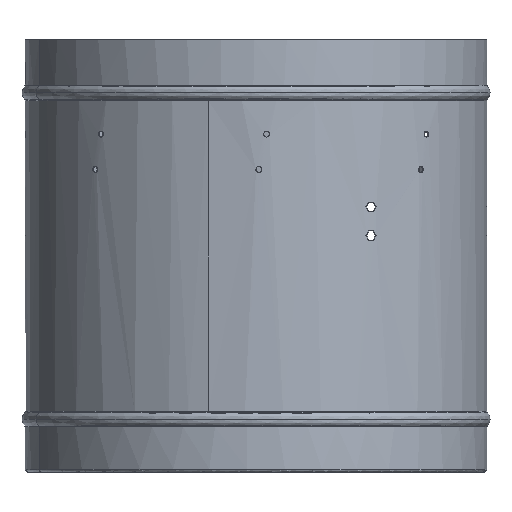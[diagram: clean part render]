
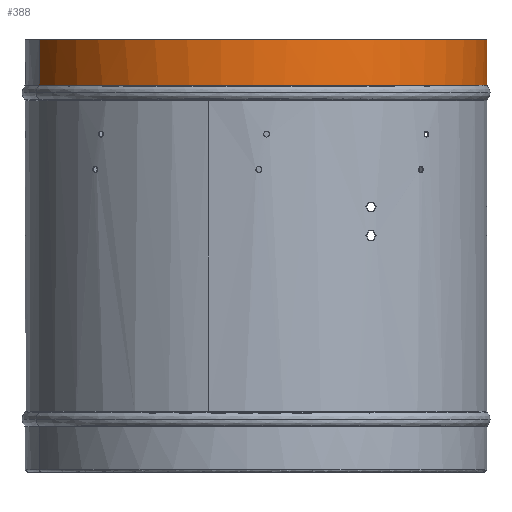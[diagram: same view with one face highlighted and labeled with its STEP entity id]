
A CAD part, front view. The second image highlights one B-rep face of the part: STEP entity #388.
In plain terms, the highlighted cylindrical face has radius 176 mm (diameter 352 mm), a partial arc.
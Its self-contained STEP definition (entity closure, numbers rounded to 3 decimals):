
#94=(
BOUNDED_CURVE()
B_SPLINE_CURVE(2,(#9129,#9130,#9131),.UNSPECIFIED.,.F.,.F.)
B_SPLINE_CURVE_WITH_KNOTS((3,3),(491.485,552.937),
 .UNSPECIFIED.)
CURVE()
GEOMETRIC_REPRESENTATION_ITEM()
RATIONAL_B_SPLINE_CURVE((1.,0.985,1.))
REPRESENTATION_ITEM('')
);
#95=(
BOUNDED_CURVE()
B_SPLINE_CURVE(2,(#9132,#9133,#9134,#9135,#9136),.UNSPECIFIED.,.F.,.F.)
B_SPLINE_CURVE_WITH_KNOTS((3,2,3),(0.,245.742,491.485),
 .UNSPECIFIED.)
CURVE()
GEOMETRIC_REPRESENTATION_ITEM()
RATIONAL_B_SPLINE_CURVE((1.,0.766,1.,0.766,1.))
REPRESENTATION_ITEM('')
);
#100=(
BOUNDED_CURVE()
B_SPLINE_CURVE(2,(#9175,#9176,#9177,#9178,#9179),.UNSPECIFIED.,.F.,.F.)
B_SPLINE_CURVE_WITH_KNOTS((3,2,3),(-552.92,-276.46,
0.),.UNSPECIFIED.)
CURVE()
GEOMETRIC_REPRESENTATION_ITEM()
RATIONAL_B_SPLINE_CURVE((1.,0.707,1.,0.707,1.))
REPRESENTATION_ITEM('')
);
#291=CYLINDRICAL_SURFACE('',#3143,176.);
#388=ADVANCED_FACE('',(#553),#291,.T.);
#553=FACE_OUTER_BOUND('',#728,.T.);
#728=EDGE_LOOP('',(#1034,#1035,#1036,#1037,#1038));
#1034=ORIENTED_EDGE('',*,*,#1870,.F.);
#1035=ORIENTED_EDGE('',*,*,#1864,.T.);
#1036=ORIENTED_EDGE('',*,*,#1863,.T.);
#1037=ORIENTED_EDGE('',*,*,#1874,.T.);
#1038=ORIENTED_EDGE('',*,*,#1873,.T.);
#1863=EDGE_CURVE('',#2693,#2694,#94,.T.);
#1864=EDGE_CURVE('',#2692,#2693,#95,.T.);
#1870=EDGE_CURVE('',#2692,#2695,#2336,.T.);
#1873=EDGE_CURVE('',#2697,#2695,#100,.T.);
#1874=EDGE_CURVE('',#2694,#2697,#2338,.T.);
#2336=B_SPLINE_CURVE_WITH_KNOTS('',1,(#9164,#9165),.UNSPECIFIED.,.F.,.F.,
(2,2),(-34.563,0.),.UNSPECIFIED.);
#2338=B_SPLINE_CURVE_WITH_KNOTS('',3,(#9180,#9181,#9182,#9183),
 .UNSPECIFIED.,.F.,.F.,(4,4),(-34.563,0.),.UNSPECIFIED.);
#2692=VERTEX_POINT('',#8753);
#2693=VERTEX_POINT('',#8754);
#2694=VERTEX_POINT('',#8755);
#2695=VERTEX_POINT('',#8756);
#2697=VERTEX_POINT('',#8758);
#3143=AXIS2_PLACEMENT_3D('',#5205,#3258,$);
#3258=DIRECTION('',(0.,0.,-1.));
#5205=CARTESIAN_POINT('',(0.,0.,-17.281));
#8753=CARTESIAN_POINT('',(-165.386,-60.196,-34.563));
#8754=CARTESIAN_POINT('',(176.,0.,-34.563));
#8755=CARTESIAN_POINT('',(165.38,60.211,-34.563));
#8756=CARTESIAN_POINT('',(-165.403,-60.149,0.));
#8758=CARTESIAN_POINT('',(165.403,60.149,0.));
#9129=CARTESIAN_POINT('',(176.,0.,-34.563));
#9130=CARTESIAN_POINT('',(176.,31.042,-34.563));
#9131=CARTESIAN_POINT('',(165.38,60.211,-34.563));
#9132=CARTESIAN_POINT('',(-165.386,-60.196,-34.563));
#9133=CARTESIAN_POINT('',(-114.876,-198.971,-34.563));
#9134=CARTESIAN_POINT('',(30.562,-173.326,-34.563));
#9135=CARTESIAN_POINT('',(176.,-147.682,-34.563));
#9136=CARTESIAN_POINT('',(176.,0.,-34.563));
#9164=CARTESIAN_POINT('',(-165.386,-60.196,-34.563));
#9165=CARTESIAN_POINT('',(-165.403,-60.149,0.));
#9175=CARTESIAN_POINT('',(165.403,60.149,0.));
#9176=CARTESIAN_POINT('',(225.552,-105.254,0.));
#9177=CARTESIAN_POINT('',(60.149,-165.403,0.));
#9178=CARTESIAN_POINT('',(-105.254,-225.552,0.));
#9179=CARTESIAN_POINT('',(-165.403,-60.149,0.));
#9180=CARTESIAN_POINT('',(165.38,60.211,-34.563));
#9181=CARTESIAN_POINT('',(165.38,60.211,-23.042));
#9182=CARTESIAN_POINT('',(165.403,60.149,-11.521));
#9183=CARTESIAN_POINT('',(165.403,60.149,0.));
